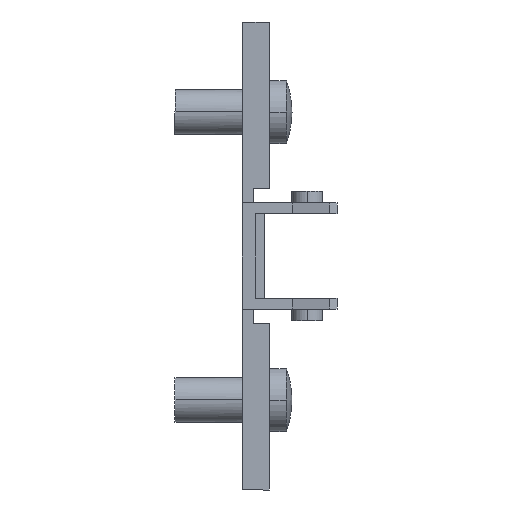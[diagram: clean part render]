
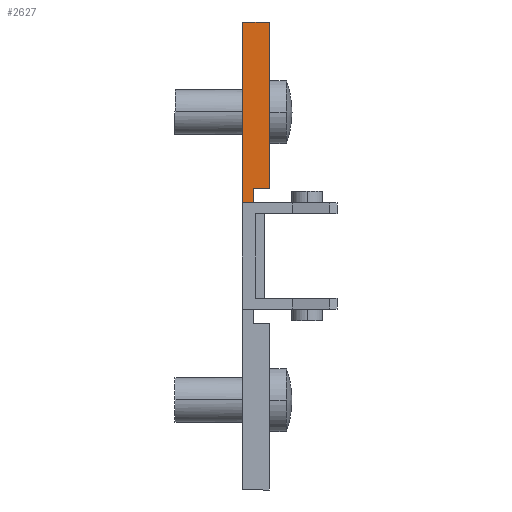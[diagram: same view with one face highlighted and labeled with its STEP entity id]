
A CAD part, front view. The second image highlights one B-rep face of the part: STEP entity #2627.
In plain terms, the highlighted planar face has unit normal (0, -1, 0).
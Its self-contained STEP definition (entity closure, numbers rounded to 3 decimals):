
#113 = CARTESIAN_POINT ( 'NONE',  ( 3., -9., 7.5 ) ) ;
#116 = DIRECTION ( 'NONE',  ( -1., 0., 0. ) ) ;
#424 = EDGE_CURVE ( 'NONE', #1252, #953, #659, .T. ) ;
#425 = EDGE_CURVE ( 'NONE', #1471, #1476, #660, .T. ) ;
#444 = EDGE_CURVE ( 'NONE', #486, #508, #618, .T. ) ;
#486 = VERTEX_POINT ( 'NONE', #1998 ) ;
#508 = VERTEX_POINT ( 'NONE', #2034 ) ;
#556 = EDGE_CURVE ( 'NONE', #1476, #1252, #2548, .T. ) ;
#618 = LINE ( 'NONE', #1558, #629 ) ;
#629 = VECTOR ( 'NONE', #1777, 1000. ) ;
#652 = VECTOR ( 'NONE', #1524, 1000. ) ;
#654 = VECTOR ( 'NONE', #1522, 1000. ) ;
#659 = LINE ( 'NONE', #1519, #654 ) ;
#660 = LINE ( 'NONE', #1521, #652 ) ;
#853 = CARTESIAN_POINT ( 'NONE',  ( 0., -9., 5.9 ) ) ;
#856 = DIRECTION ( 'NONE',  ( -1., 0., 0. ) ) ;
#953 = VERTEX_POINT ( 'NONE', #1728 ) ;
#1252 = VERTEX_POINT ( 'NONE', #1754 ) ;
#1471 = VERTEX_POINT ( 'NONE', #1874 ) ;
#1476 = VERTEX_POINT ( 'NONE', #1877 ) ;
#1519 = CARTESIAN_POINT ( 'NONE',  ( 3., -9., 26. ) ) ;
#1521 = CARTESIAN_POINT ( 'NONE',  ( 0., -9., 5. ) ) ;
#1522 = DIRECTION ( 'NONE',  ( 0., 0., -1. ) ) ;
#1524 = DIRECTION ( 'NONE',  ( 0., 0., 1. ) ) ;
#1558 = CARTESIAN_POINT ( 'NONE',  ( 1.2, -9., 7.5 ) ) ;
#1684 = DIRECTION ( 'NONE',  ( 1., 0., 0. ) ) ;
#1685 = CARTESIAN_POINT ( 'NONE',  ( 0., -9., 26. ) ) ;
#1728 = CARTESIAN_POINT ( 'NONE',  ( 3., -9., 7.5 ) ) ;
#1754 = CARTESIAN_POINT ( 'NONE',  ( 3., -9., 26. ) ) ;
#1777 = DIRECTION ( 'NONE',  ( 0., 0., -1. ) ) ;
#1874 = CARTESIAN_POINT ( 'NONE',  ( 0., -9., 5.9 ) ) ;
#1877 = CARTESIAN_POINT ( 'NONE',  ( 0., -9., 26. ) ) ;
#1921 = PLANE ( 'NONE',  #3488 ) ;
#1925 = CARTESIAN_POINT ( 'NONE',  ( 0., -9., 5. ) ) ;
#1947 = DIRECTION ( 'NONE',  ( 0., 1., 0. ) ) ;
#1949 = DIRECTION ( 'NONE',  ( 0., 0., 1. ) ) ;
#1998 = CARTESIAN_POINT ( 'NONE',  ( 1.2, -9., 7.5 ) ) ;
#2034 = CARTESIAN_POINT ( 'NONE',  ( 1.2, -9., 5.9 ) ) ;
#2130 = EDGE_LOOP ( 'NONE', ( #2709, #2715, #2675, #2780, #3100, #2707 ) ) ;
#2225 = VECTOR ( 'NONE', #116, 1000. ) ;
#2226 = LINE ( 'NONE', #113, #2225 ) ;
#2438 = LINE ( 'NONE', #853, #2441 ) ;
#2441 = VECTOR ( 'NONE', #856, 1000. ) ;
#2548 = LINE ( 'NONE', #1685, #2561 ) ;
#2561 = VECTOR ( 'NONE', #1684, 1000. ) ;
#2604 = FACE_OUTER_BOUND ( 'NONE', #2130, .T. ) ;
#2627 = ADVANCED_FACE ( 'NONE', ( #2604 ), #1921, .F. ) ;
#2675 = ORIENTED_EDGE ( 'NONE', *, *, #444, .F. ) ;
#2707 = ORIENTED_EDGE ( 'NONE', *, *, #556, .F. ) ;
#2709 = ORIENTED_EDGE ( 'NONE', *, *, #425, .F. ) ;
#2715 = ORIENTED_EDGE ( 'NONE', *, *, #3222, .F. ) ;
#2780 = ORIENTED_EDGE ( 'NONE', *, *, #3336, .F. ) ;
#3100 = ORIENTED_EDGE ( 'NONE', *, *, #424, .F. ) ;
#3222 = EDGE_CURVE ( 'NONE', #508, #1471, #2438, .T. ) ;
#3336 = EDGE_CURVE ( 'NONE', #953, #486, #2226, .T. ) ;
#3488 = AXIS2_PLACEMENT_3D ( 'NONE', #1925, #1947, #1949 ) ;
